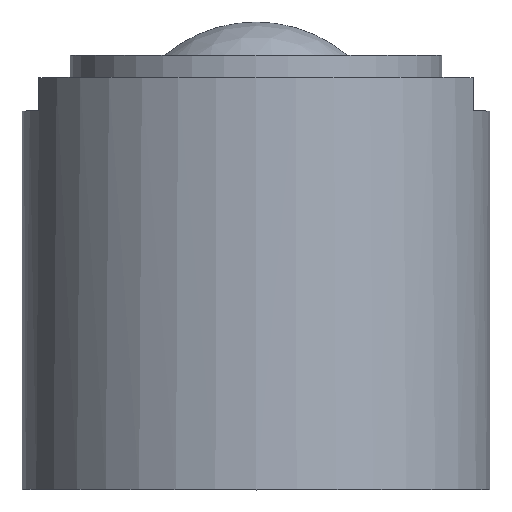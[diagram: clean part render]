
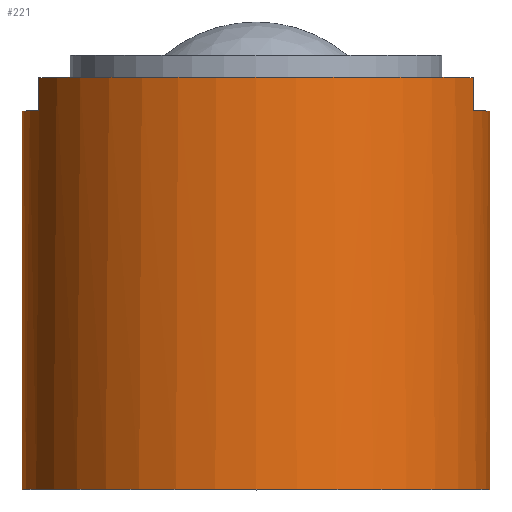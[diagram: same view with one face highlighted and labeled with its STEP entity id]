
A CAD part, top view. The second image highlights one B-rep face of the part: STEP entity #221.
In plain terms, the highlighted cylindrical face has radius 21 mm (diameter 42 mm), a partial arc.
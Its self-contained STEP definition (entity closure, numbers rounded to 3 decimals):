
#2 = DIRECTION ( 'NONE',  ( 0., 0., 1. ) ) ;
#6 = EDGE_CURVE ( 'NONE', #444, #171, #12, .T. ) ;
#7 = CARTESIAN_POINT ( 'NONE',  ( -19.5, 37., 7.794 ) ) ;
#12 = CIRCLE ( 'NONE', #255, 21. ) ;
#22 = ORIENTED_EDGE ( 'NONE', *, *, #132, .T. ) ;
#26 = CIRCLE ( 'NONE', #162, 21. ) ;
#30 = ORIENTED_EDGE ( 'NONE', *, *, #6, .T. ) ;
#42 = VECTOR ( 'NONE', #347, 1000. ) ;
#46 = DIRECTION ( 'NONE',  ( -1., 0., 0. ) ) ;
#56 = CARTESIAN_POINT ( 'NONE',  ( 0., 34., 0. ) ) ;
#61 = DIRECTION ( 'NONE',  ( 0., 1., 0. ) ) ;
#64 = ORIENTED_EDGE ( 'NONE', *, *, #197, .F. ) ;
#77 = DIRECTION ( 'NONE',  ( 0., -1., 0. ) ) ;
#81 = CARTESIAN_POINT ( 'NONE',  ( 21., 42., 0. ) ) ;
#83 = CARTESIAN_POINT ( 'NONE',  ( 0., 0., 0. ) ) ;
#84 = CIRCLE ( 'NONE', #141, 21. ) ;
#94 = EDGE_CURVE ( 'NONE', #171, #415, #354, .T. ) ;
#96 = CARTESIAN_POINT ( 'NONE',  ( 21., 0., 0. ) ) ;
#102 = AXIS2_PLACEMENT_3D ( 'NONE', #332, #408, #193 ) ;
#111 = CARTESIAN_POINT ( 'NONE',  ( 21., 34., 0. ) ) ;
#122 = EDGE_CURVE ( 'NONE', #146, #324, #26, .T. ) ;
#125 = DIRECTION ( 'NONE',  ( -1., 0., 0. ) ) ;
#126 = VECTOR ( 'NONE', #256, 1000. ) ;
#130 = VERTEX_POINT ( 'NONE', #296 ) ;
#132 = EDGE_CURVE ( 'NONE', #136, #130, #172, .T. ) ;
#136 = VERTEX_POINT ( 'NONE', #361 ) ;
#138 = CIRCLE ( 'NONE', #261, 21. ) ;
#141 = AXIS2_PLACEMENT_3D ( 'NONE', #222, #328, #125 ) ;
#146 = VERTEX_POINT ( 'NONE', #225 ) ;
#162 = AXIS2_PLACEMENT_3D ( 'NONE', #56, #61, #441 ) ;
#163 = DIRECTION ( 'NONE',  ( 0., 1., 0. ) ) ;
#167 = ORIENTED_EDGE ( 'NONE', *, *, #304, .F. ) ;
#171 = VERTEX_POINT ( 'NONE', #96 ) ;
#172 = LINE ( 'NONE', #228, #126 ) ;
#178 = EDGE_LOOP ( 'NONE', ( #30, #186, #374, #22, #64, #329, #248, #167 ) ) ;
#186 = ORIENTED_EDGE ( 'NONE', *, *, #94, .T. ) ;
#193 = DIRECTION ( 'NONE',  ( -1., 0., 0. ) ) ;
#197 = EDGE_CURVE ( 'NONE', #388, #130, #84, .T. ) ;
#210 = CARTESIAN_POINT ( 'NONE',  ( -21., 0., 0. ) ) ;
#221 = ADVANCED_FACE ( 'NONE', ( #412 ), #306, .T. ) ;
#222 = CARTESIAN_POINT ( 'NONE',  ( 0., 37., 0. ) ) ;
#225 = CARTESIAN_POINT ( 'NONE',  ( -21., 34., 0. ) ) ;
#228 = CARTESIAN_POINT ( 'NONE',  ( 19.5, 42., 7.794 ) ) ;
#233 = LINE ( 'NONE', #382, #42 ) ;
#239 = CARTESIAN_POINT ( 'NONE',  ( -19.5, 34., 7.794 ) ) ;
#248 = ORIENTED_EDGE ( 'NONE', *, *, #122, .F. ) ;
#255 = AXIS2_PLACEMENT_3D ( 'NONE', #83, #313, #46 ) ;
#256 = DIRECTION ( 'NONE',  ( 0., 1., 0. ) ) ;
#261 = AXIS2_PLACEMENT_3D ( 'NONE', #279, #77, #2 ) ;
#263 = CARTESIAN_POINT ( 'NONE',  ( -19.5, 42., 7.794 ) ) ;
#278 = EDGE_CURVE ( 'NONE', #324, #388, #379, .T. ) ;
#279 = CARTESIAN_POINT ( 'NONE',  ( 0., 34., 0. ) ) ;
#290 = VECTOR ( 'NONE', #163, 1000. ) ;
#296 = CARTESIAN_POINT ( 'NONE',  ( 19.5, 37., 7.794 ) ) ;
#302 = EDGE_CURVE ( 'NONE', #415, #136, #138, .T. ) ;
#304 = EDGE_CURVE ( 'NONE', #444, #146, #233, .T. ) ;
#306 = CYLINDRICAL_SURFACE ( 'NONE', #102, 21. ) ;
#313 = DIRECTION ( 'NONE',  ( 0., 1., 0. ) ) ;
#324 = VERTEX_POINT ( 'NONE', #239 ) ;
#328 = DIRECTION ( 'NONE',  ( 0., 1., 0. ) ) ;
#329 = ORIENTED_EDGE ( 'NONE', *, *, #278, .F. ) ;
#332 = CARTESIAN_POINT ( 'NONE',  ( 0., 42., 0. ) ) ;
#334 = VECTOR ( 'NONE', #353, 1000. ) ;
#347 = DIRECTION ( 'NONE',  ( 0., 1., 0. ) ) ;
#353 = DIRECTION ( 'NONE',  ( 0., 1., 0. ) ) ;
#354 = LINE ( 'NONE', #81, #334 ) ;
#361 = CARTESIAN_POINT ( 'NONE',  ( 19.5, 34., 7.794 ) ) ;
#374 = ORIENTED_EDGE ( 'NONE', *, *, #302, .T. ) ;
#379 = LINE ( 'NONE', #263, #290 ) ;
#382 = CARTESIAN_POINT ( 'NONE',  ( -21., 42., 0. ) ) ;
#388 = VERTEX_POINT ( 'NONE', #7 ) ;
#408 = DIRECTION ( 'NONE',  ( 0., 1., 0. ) ) ;
#412 = FACE_OUTER_BOUND ( 'NONE', #178, .T. ) ;
#415 = VERTEX_POINT ( 'NONE', #111 ) ;
#441 = DIRECTION ( 'NONE',  ( 0., 0., -1. ) ) ;
#444 = VERTEX_POINT ( 'NONE', #210 ) ;
